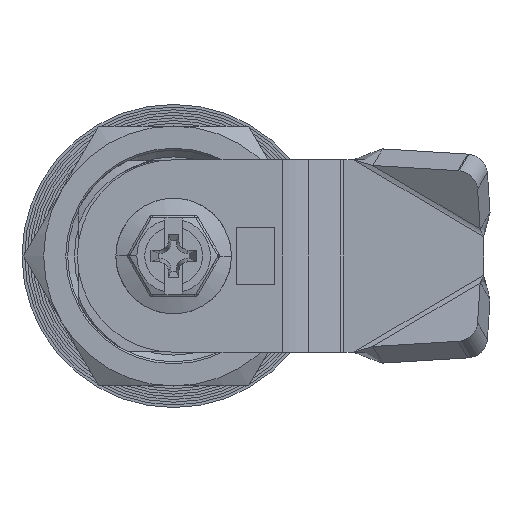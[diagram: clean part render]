
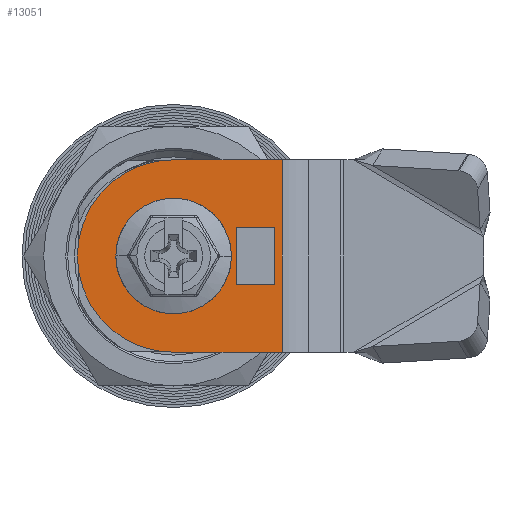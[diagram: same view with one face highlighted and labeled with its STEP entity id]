
A CAD part, front view. The second image highlights one B-rep face of the part: STEP entity #13051.
In plain terms, the highlighted planar face has unit normal (0, -1, 0).
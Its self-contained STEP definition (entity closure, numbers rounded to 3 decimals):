
#101 = CARTESIAN_POINT ( 'NONE',  ( 10.5, 0., 10. ) ) ;
#1608 = CARTESIAN_POINT ( 'NONE',  ( 11.309, 0., 10. ) ) ;
#1614 = CARTESIAN_POINT ( 'NONE',  ( 11.309, 0., 10. ) ) ;
#2098 = ORIENTED_EDGE ( 'NONE', *, *, #29416, .F. ) ;
#2295 = CIRCLE ( 'NONE', #8348, 10. ) ;
#3154 = DIRECTION ( 'NONE',  ( 0., 0., 1. ) ) ;
#3429 = VECTOR ( 'NONE', #38379, 1000. ) ;
#4173 = VERTEX_POINT ( 'NONE', #10398 ) ;
#4595 = EDGE_CURVE ( 'NONE', #33285, #34106, #21638, .T. ) ;
#5165 = PLANE ( 'NONE',  #14928 ) ;
#5872 = EDGE_CURVE ( 'NONE', #28814, #4173, #2295, .T. ) ;
#6029 = DIRECTION ( 'NONE',  ( 0., 0., -1. ) ) ;
#6033 = LINE ( 'NONE', #22989, #20097 ) ;
#7002 = CARTESIAN_POINT ( 'NONE',  ( 0., 0., -10. ) ) ;
#8348 = AXIS2_PLACEMENT_3D ( 'NONE', #24552, #20723, #17389 ) ;
#8997 = CARTESIAN_POINT ( 'NONE',  ( 11.309, 0., 3. ) ) ;
#9100 = LINE ( 'NONE', #41256, #23393 ) ;
#9167 = VERTEX_POINT ( 'NONE', #24814 ) ;
#10398 = CARTESIAN_POINT ( 'NONE',  ( 0., 0., 10. ) ) ;
#12027 = EDGE_LOOP ( 'NONE', ( #14023, #24905, #2098, #27093 ) ) ;
#12198 = LINE ( 'NONE', #23429, #42592 ) ;
#12475 = DIRECTION ( 'NONE',  ( 0., 1., 0. ) ) ;
#12629 = CARTESIAN_POINT ( 'NONE',  ( 10.5, 0., 3. ) ) ;
#13051 = ADVANCED_FACE ( 'NONE', ( #23708, #34158 ), #5165, .F. ) ;
#13317 = EDGE_CURVE ( 'NONE', #43022, #9167, #37564, .T. ) ;
#13915 = EDGE_LOOP ( 'NONE', ( #31267, #35793, #45196, #37339 ) ) ;
#14023 = ORIENTED_EDGE ( 'NONE', *, *, #27266, .F. ) ;
#14928 = AXIS2_PLACEMENT_3D ( 'NONE', #1608, #12475, #16064 ) ;
#15826 = CARTESIAN_POINT ( 'NONE',  ( 6.5, 0., -3. ) ) ;
#16015 = DIRECTION ( 'NONE',  ( 1., 0., 0. ) ) ;
#16064 = DIRECTION ( 'NONE',  ( 0., 0., 1. ) ) ;
#17335 = VECTOR ( 'NONE', #18056, 1000. ) ;
#17389 = DIRECTION ( 'NONE',  ( 0., 0., 1. ) ) ;
#18056 = DIRECTION ( 'NONE',  ( 1., 0., 0. ) ) ;
#19186 = CARTESIAN_POINT ( 'NONE',  ( 11.309, 0., -10. ) ) ;
#20097 = VECTOR ( 'NONE', #34770, 1000. ) ;
#20723 = DIRECTION ( 'NONE',  ( 0., 1., 0. ) ) ;
#21638 = LINE ( 'NONE', #28801, #17335 ) ;
#22521 = VECTOR ( 'NONE', #34228, 1000. ) ;
#22989 = CARTESIAN_POINT ( 'NONE',  ( 11.309, 0., 10. ) ) ;
#23393 = VECTOR ( 'NONE', #6029, 1000. ) ;
#23429 = CARTESIAN_POINT ( 'NONE',  ( 11.309, 0., 10. ) ) ;
#23708 = FACE_OUTER_BOUND ( 'NONE', #13915, .T. ) ;
#24105 = CARTESIAN_POINT ( 'NONE',  ( 11.309, 0., -10. ) ) ;
#24552 = CARTESIAN_POINT ( 'NONE',  ( 0., 0., 0. ) ) ;
#24814 = CARTESIAN_POINT ( 'NONE',  ( 6.5, 0., 3. ) ) ;
#24905 = ORIENTED_EDGE ( 'NONE', *, *, #4595, .F. ) ;
#27093 = ORIENTED_EDGE ( 'NONE', *, *, #13317, .F. ) ;
#27266 = EDGE_CURVE ( 'NONE', #34106, #43022, #32831, .T. ) ;
#27982 = CARTESIAN_POINT ( 'NONE',  ( 10.5, 0., -3. ) ) ;
#28151 = LINE ( 'NONE', #24105, #3429 ) ;
#28488 = VERTEX_POINT ( 'NONE', #19186 ) ;
#28801 = CARTESIAN_POINT ( 'NONE',  ( 11.309, 0., -3. ) ) ;
#28814 = VERTEX_POINT ( 'NONE', #7002 ) ;
#29416 = EDGE_CURVE ( 'NONE', #9167, #33285, #9100, .T. ) ;
#31267 = ORIENTED_EDGE ( 'NONE', *, *, #37889, .F. ) ;
#32014 = EDGE_CURVE ( 'NONE', #4173, #34849, #12198, .T. ) ;
#32831 = LINE ( 'NONE', #101, #40206 ) ;
#33285 = VERTEX_POINT ( 'NONE', #15826 ) ;
#34106 = VERTEX_POINT ( 'NONE', #27982 ) ;
#34158 = FACE_BOUND ( 'NONE', #12027, .T. ) ;
#34228 = DIRECTION ( 'NONE',  ( -1., 0., 0. ) ) ;
#34770 = DIRECTION ( 'NONE',  ( 0., 0., -1. ) ) ;
#34849 = VERTEX_POINT ( 'NONE', #1614 ) ;
#35793 = ORIENTED_EDGE ( 'NONE', *, *, #32014, .F. ) ;
#37339 = ORIENTED_EDGE ( 'NONE', *, *, #37882, .F. ) ;
#37564 = LINE ( 'NONE', #8997, #22521 ) ;
#37882 = EDGE_CURVE ( 'NONE', #28488, #28814, #28151, .T. ) ;
#37889 = EDGE_CURVE ( 'NONE', #34849, #28488, #6033, .T. ) ;
#38379 = DIRECTION ( 'NONE',  ( -1., 0., 0. ) ) ;
#40206 = VECTOR ( 'NONE', #3154, 1000. ) ;
#41256 = CARTESIAN_POINT ( 'NONE',  ( 6.5, 0., 10. ) ) ;
#42592 = VECTOR ( 'NONE', #16015, 1000. ) ;
#43022 = VERTEX_POINT ( 'NONE', #12629 ) ;
#45196 = ORIENTED_EDGE ( 'NONE', *, *, #5872, .F. ) ;
